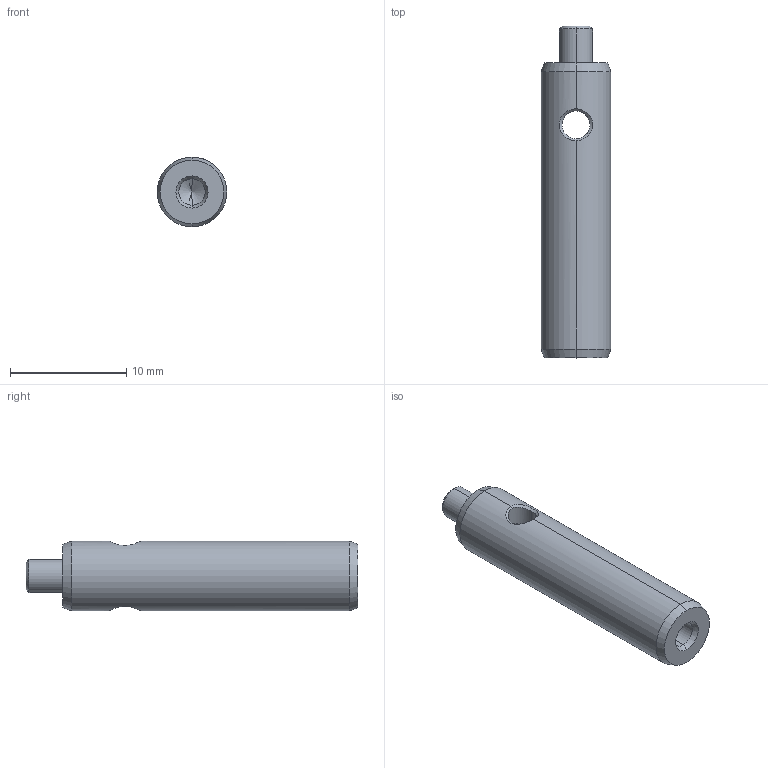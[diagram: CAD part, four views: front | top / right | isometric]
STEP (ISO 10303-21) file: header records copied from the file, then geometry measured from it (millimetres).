
FILE_DESCRIPTION (( 'STEP AP214' ), '1' );
FILE_NAME ('8573-E0W.STEP', '2018-04-12T14:24:52', ( '' ), ( '' ), 'SwSTEP 2.0', 'SolidWorks 2016', '' );
FILE_SCHEMA (( 'AUTOMOTIVE_DESIGN' ));
Length unit declared in the file: millimetre
Products named in the file (1): 8573-E0W
Bounding box: 5.99 x 28.57 x 5.99 mm (x, y, z)
Volume: 682.1 mm3; surface area: 691.4 mm2
Topology: 2 solids, 2 shells, 45 faces, 104 edges, 61 vertices
Faces by surface type: plane 17, cone 14, cylinder 10, bspline 4
Entity records: 4417 total; most frequent: CARTESIAN_POINT 2898, ORIENTED_EDGE 204, DIRECTION 192, EDGE_CURVE 102, AXIS2_PLACEMENT_3D 68, VERTEX_POINT 61, LINE 56, VECTOR 56
